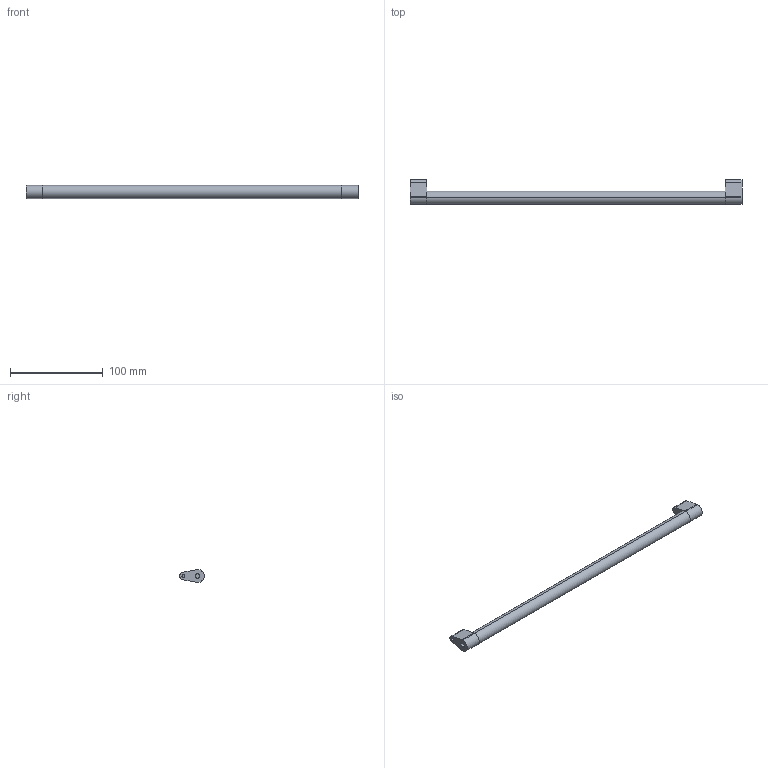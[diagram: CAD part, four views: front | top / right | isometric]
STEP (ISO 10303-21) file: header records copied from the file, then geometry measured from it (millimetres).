
FILE_DESCRIPTION (( 'STEP AP214' ), '1' );
FILE_NAME ('_Synchronisationseinheit DWD XP KAB450_S16.step', '2010-07-08T13:58:16', ( 'grass' ), ( '' ), 'SwSTEP 2.0', 'SolidWorks 2010', '' );
FILE_SCHEMA (( 'AUTOMOTIVE_DESIGN' ));
Length unit declared in the file: millimetre
Products named in the file (1): _Synchronisationseinheit DWD XP KAB450_S16
Bounding box: 357 x 26.5 x 14 mm (x, y, z)
Volume: 58642.7 mm3; surface area: 18548.7 mm2
Topology: 3 solids, 3 shells, 36 faces, 78 edges, 52 vertices
Faces by surface type: cylinder 18, plane 18
Entity records: 1050 total; most frequent: DIRECTION 188, CARTESIAN_POINT 167, ORIENTED_EDGE 156, EDGE_CURVE 78, AXIS2_PLACEMENT_3D 73, VERTEX_POINT 52, LINE 42, VECTOR 42
